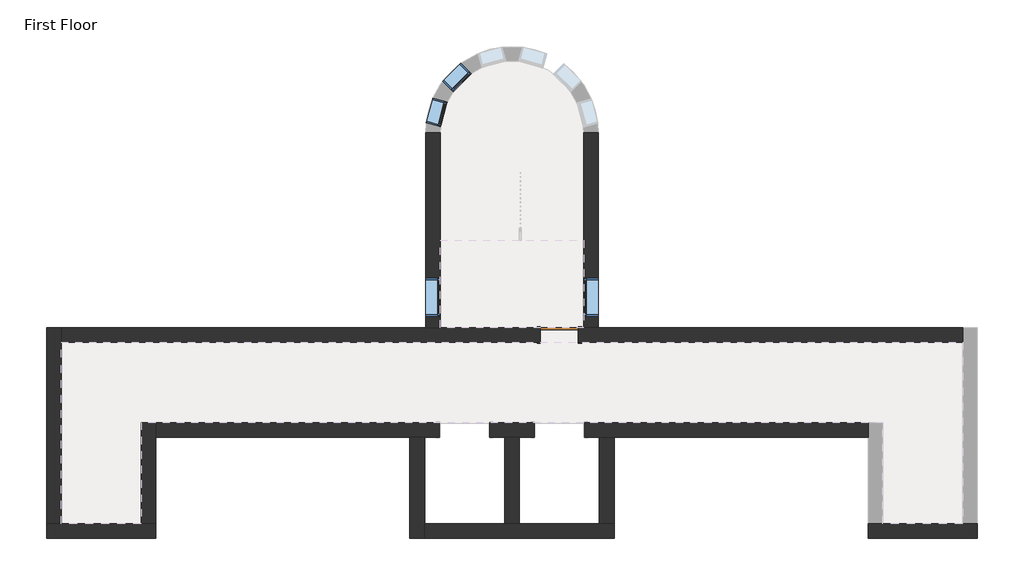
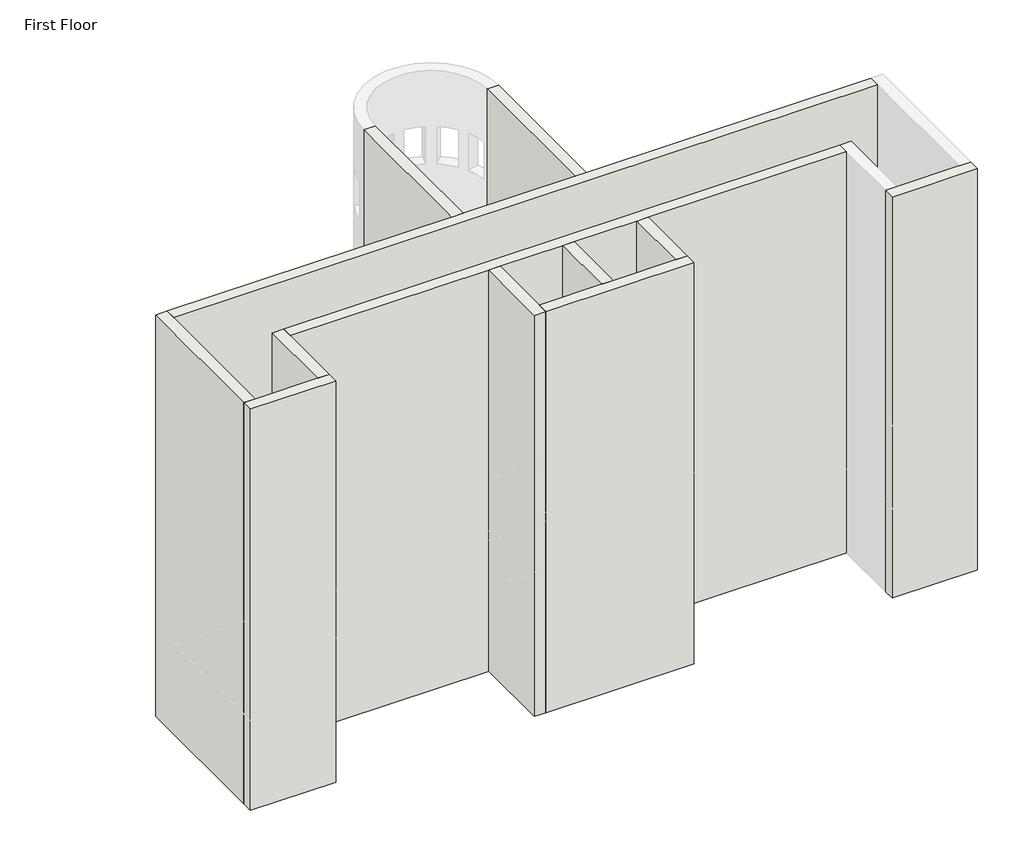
# One storey, part 1 of 5: 12 walls, 4 windows, 1 door.
"""IFC4 building model written with IfcOpenShell, lengths in millimetres."""

from ifc_helpers import new_model, si_unit, frame, origin, origin_with_axes, place, context, project, spatial, polyline, outline, extrude, faceted_brep, transform, mapped, element, save
from components import door_632be17d, window_60baf983, window_15c49d37

model = new_model("IFC4")

# Units and contexts
model_context = context("Model", 3, world=origin())
ifc_project = project(units=[si_unit("LENGTHUNIT", "METRE", prefix="MILLI")], contexts=[model_context])

# Site, building, storey
site = spatial("IfcSite", under=ifc_project)
building = spatial("IfcBuilding", under=site)
storey = spatial("IfcBuildingStorey", under=building, Name="First Floor", Elevation=0.0)

# Door
placement = place(None, origin())
door_shape = door_632be17d(model_context)
element("IfcDoor", 1, ObjectType="Single-Flush : 36\" x 84\"", at=placement, inside=storey, context=model_context, shape_type="MappedRepresentation", body=[
    mapped(door_shape, transform((-5102.6149687, 4715.9758812, 0.0), x_axis=(1.0, 0.0, 0.0), y_axis=(0.0, 1.0, 0.0), z_axis=(0.0, 0.0, 1.0))),
])

# Walls
element("IfcWall", 2, ObjectType="Exterior - Brick on Mtl. Stud", at=placement, inside=storey, context=model_context, shape_type="Brep", body=[
    faceted_brep([(-8707.8274687, 2253.7633812, 0.0), (-8707.8274687, -184.6366188, 0.0), (-8707.8274687, -184.6366188, 13106.4), (-8707.8274687, 2253.7633812, 13106.4), (-8355.4024687, 2253.7633812, 0.0), (-8355.4024687, 2253.7633812, 13106.4), (-8355.4024687, 167.7883812, 13106.4), (-8355.4024687, -184.6366188, 13106.4), (-8355.4024687, -184.6366188, 0.0), (-8355.4024687, 167.7883812, 0.0)], [[[0, 1, 2, 3]], [[4, 5, 6, 7, 8, 9]], [[1, 0, 4, 9, 8]], [[3, 2, 7, 6, 5]], [[2, 1, 8, 7]], [[0, 3, 5, 4]]]),
])
element("IfcWall", 3, ObjectType="Exterior - Brick on Mtl. Stud", at=placement, inside=storey, context=model_context, shape_type="Brep", body=[
    faceted_brep([(-8355.4024687, -184.6366188, 0.0), (-3783.4024687, -184.6366188, 0.0), (-3783.4024687, -184.6366188, 13106.4), (-8355.4024687, -184.6366188, 13106.4), (-8355.4024687, 167.7883812, 0.0), (-8355.4024687, 167.7883812, 13106.4), (-6421.8274687, 167.7883812, 13106.4), (-6069.4024687, 167.7883812, 13106.4), (-4135.8274687, 167.7883812, 13106.4), (-3783.4024687, 167.7883812, 13106.4), (-3783.4024687, 167.7883812, 0.0), (-4135.8274687, 167.7883812, 0.0), (-6069.4024687, 167.7883812, 0.0), (-6421.8274687, 167.7883812, 0.0)], [[[0, 1, 2, 3]], [[4, 5, 6, 7, 8, 9, 10, 11, 12, 13]], [[1, 0, 4, 13, 12, 11, 10]], [[3, 2, 9, 8, 7, 6, 5]], [[2, 1, 10, 9]], [[0, 3, 5, 4]]]),
])
element("IfcWall", 4, ObjectType="Exterior - Brick on Mtl. Stud", at=placement, inside=storey, context=model_context, shape_type="SweptSolid", body=[
    extrude(outline(polyline([(-3783.4024687, 2253.7633812), (-3783.4024687, 167.7883812), (-4135.8274687, 167.7883812), (-4135.8274687, 2253.7633812), (-3783.4024687, 2253.7633812)])), origin_with_axes(), (0.0, 0.0, 1.0), 13106.4),
])
element("IfcWall", 5, ObjectType="Exterior - Brick on Mtl. Stud", at=placement, inside=storey, context=model_context, shape_type="Brep", body=[
    faceted_brep([(-6779.0149687, 2253.7633812, 0.0), (-6421.8274687, 2253.7633812, 0.0), (-6069.4024687, 2253.7633812, 0.0), (-5712.2149687, 2253.7633812, 0.0), (-5712.2149687, 2253.7633812, 2133.6), (-4493.0149687, 2253.7633812, 2133.6), (-4493.0149687, 2253.7633812, 0.0), (-4135.8274687, 2253.7633812, 0.0), (-3783.4024687, 2253.7633812, 0.0), (2341.1725313, 2253.7633812, 0.0), (2341.1725313, 2253.7633812, 13106.4), (-3783.4024687, 2253.7633812, 13106.4), (-4135.8274687, 2253.7633812, 13106.4), (-6069.4024687, 2253.7633812, 13106.4), (-6421.8274687, 2253.7633812, 13106.4), (-8355.4024687, 2253.7633812, 13106.4), (-8707.8274687, 2253.7633812, 13106.4), (-14832.4024687, 2253.7633812, 13106.4), (-14832.4024687, 2253.7633812, 0.0), (-8707.8274687, 2253.7633812, 0.0), (-8355.4024687, 2253.7633812, 0.0), (-7998.2149687, 2253.7633812, 0.0), (-7998.2149687, 2253.7633812, 2133.6), (-6779.0149687, 2253.7633812, 2133.6), (-6779.0149687, 2253.7633812, 11277.6), (-6779.0149687, 2253.7633812, 9144.0), (-7998.2149687, 2253.7633812, 9144.0), (-7998.2149687, 2253.7633812, 11277.6), (-4493.0149687, 2253.7633812, 11277.6), (-4493.0149687, 2253.7633812, 9144.0), (-5712.2149687, 2253.7633812, 9144.0), (-5712.2149687, 2253.7633812, 11277.6), (-6779.0149687, 2253.7633812, 5181.6), (-6779.0149687, 2253.7633812, 3048.0), (-7998.2149687, 2253.7633812, 3048.0), (-7998.2149687, 2253.7633812, 5181.6), (-4493.0149687, 2253.7633812, 5181.6), (-4493.0149687, 2253.7633812, 3048.0), (-5712.2149687, 2253.7633812, 3048.0), (-5712.2149687, 2253.7633812, 5181.6), (-6779.0149687, 2253.7633812, 8229.6), (-6779.0149687, 2253.7633812, 6096.0), (-7998.2149687, 2253.7633812, 6096.0), (-7998.2149687, 2253.7633812, 8229.6), (-4493.0149687, 2253.7633812, 8229.6), (-4493.0149687, 2253.7633812, 6096.0), (-5712.2149687, 2253.7633812, 6096.0), (-5712.2149687, 2253.7633812, 8229.6), (-5712.2149687, 2606.1883812, 2133.6), (-5712.2149687, 2606.1883812, 0.0), (-6779.0149687, 2606.1883812, 0.0), (-6779.0149687, 2606.1883812, 2133.6), (-7998.2149687, 2606.1883812, 2133.6), (-7998.2149687, 2606.1883812, 0.0), (-14832.4024687, 2606.1883812, 0.0), (-14832.4024687, 2606.1883812, 13106.4), (2341.1725313, 2606.1883812, 13106.4), (2341.1725313, 2606.1883812, 0.0), (-4493.0149687, 2606.1883812, 0.0), (-4493.0149687, 2606.1883812, 2133.6), (-6779.0149687, 2606.1883812, 11277.6), (-7998.2149687, 2606.1883812, 11277.6), (-7998.2149687, 2606.1883812, 9144.0), (-6779.0149687, 2606.1883812, 9144.0), (-4493.0149687, 2606.1883812, 11277.6), (-5712.2149687, 2606.1883812, 11277.6), (-5712.2149687, 2606.1883812, 9144.0), (-4493.0149687, 2606.1883812, 9144.0), (-6779.0149687, 2606.1883812, 5181.6), (-7998.2149687, 2606.1883812, 5181.6), (-7998.2149687, 2606.1883812, 3048.0), (-6779.0149687, 2606.1883812, 3048.0), (-4493.0149687, 2606.1883812, 5181.6), (-5712.2149687, 2606.1883812, 5181.6), (-5712.2149687, 2606.1883812, 3048.0), (-4493.0149687, 2606.1883812, 3048.0), (-6779.0149687, 2606.1883812, 8229.6), (-7998.2149687, 2606.1883812, 8229.6), (-7998.2149687, 2606.1883812, 6096.0), (-6779.0149687, 2606.1883812, 6096.0), (-4493.0149687, 2606.1883812, 8229.6), (-5712.2149687, 2606.1883812, 8229.6), (-5712.2149687, 2606.1883812, 6096.0), (-4493.0149687, 2606.1883812, 6096.0)], [[[0, 1, 2, 3, 4, 5, 6, 7, 8, 9, 10, 11, 12, 13, 14, 15, 16, 17, 18, 19, 20, 21, 22, 23], [24, 25, 26, 27], [28, 29, 30, 31], [32, 33, 34, 35], [36, 37, 38, 39], [40, 41, 42, 43], [44, 45, 46, 47]], [[48, 49, 50, 51, 52, 53, 54, 55, 56, 57, 58, 59], [60, 61, 62, 63], [64, 65, 66, 67], [68, 69, 70, 71], [72, 73, 74, 75], [76, 77, 78, 79], [80, 81, 82, 83]], [[54, 53, 21, 20, 19, 18]], [[50, 49, 3, 2, 1, 0]], [[58, 57, 9, 8, 7, 6]], [[17, 16, 15, 14, 13, 12, 11, 10, 56, 55]], [[10, 9, 57, 56]], [[18, 17, 55, 54]], [[0, 23, 51, 50]], [[22, 21, 53, 52]], [[23, 22, 52, 51]], [[6, 5, 59, 58]], [[4, 3, 49, 48]], [[5, 4, 48, 59]], [[25, 24, 60, 63]], [[26, 25, 63, 62]], [[27, 26, 62, 61]], [[24, 27, 61, 60]], [[29, 28, 64, 67]], [[30, 29, 67, 66]], [[31, 30, 66, 65]], [[28, 31, 65, 64]], [[33, 32, 68, 71]], [[34, 33, 71, 70]], [[35, 34, 70, 69]], [[32, 35, 69, 68]], [[37, 36, 72, 75]], [[38, 37, 75, 74]], [[39, 38, 74, 73]], [[36, 39, 73, 72]], [[41, 40, 76, 79]], [[42, 41, 79, 78]], [[43, 42, 78, 77]], [[40, 43, 77, 76]], [[45, 44, 80, 83]], [[46, 45, 83, 82]], [[47, 46, 82, 81]], [[44, 47, 81, 80]]]),
])
element("IfcWall", 6, ObjectType="Exterior - Brick on Mtl. Stud", at=placement, inside=storey, context=model_context, shape_type="SweptSolid", body=[
    extrude(outline(polyline([(4892.1883812, 0.0), (4892.1883812, 13106.4), (9592.7758812, 13106.4), (9592.7758812, 0.0), (4892.1883812, 0.0)]), holes=[polyline([(5173.1758812, 2133.6), (5173.1758812, 914.4), (6087.5758812, 914.4), (6087.5758812, 2133.6), (5173.1758812, 2133.6)]), polyline([(5173.1758812, 11277.6), (5173.1758812, 10058.4), (6087.5758812, 10058.4), (6087.5758812, 11277.6), (5173.1758812, 11277.6)]), polyline([(5173.1758812, 5181.6), (5173.1758812, 3962.4), (6087.5758812, 3962.4), (6087.5758812, 5181.6), (5173.1758812, 5181.6)]), polyline([(5173.1758812, 8229.6), (5173.1758812, 7010.4), (6087.5758812, 7010.4), (6087.5758812, 8229.6), (5173.1758812, 8229.6)])]), frame((-8326.8274687, 0.0, 0.0), z_axis=(1.0, 0.0, 0.0), x_axis=(0.0, 1.0, 0.0)), (0.0, 0.0, 1.0), 352.425),
])
element("IfcWall", 7, ObjectType="Exterior - Brick on Mtl. Stud", at=placement, inside=storey, context=model_context, shape_type="Brep", body=[
    faceted_brep([(4627.1725313, 4892.1883812, 0.0), (-4164.4024687, 4892.1883812, 0.0), (-4516.8274687, 4892.1883812, 0.0), (-4645.4149687, 4892.1883812, 0.0), (-4645.4149687, 4892.1883812, 2133.6), (-5559.8149687, 4892.1883812, 2133.6), (-5559.8149687, 4892.1883812, 0.0), (-7974.4024687, 4892.1883812, 0.0), (-8326.8274687, 4892.1883812, 0.0), (-17118.4024687, 4892.1883812, 0.0), (-17118.4024687, 4892.1883812, 13106.4), (-8326.8274687, 4892.1883812, 13106.4), (-7974.4024687, 4892.1883812, 13106.4), (-4516.8274687, 4892.1883812, 13106.4), (-4164.4024687, 4892.1883812, 13106.4), (4627.1725313, 4892.1883812, 13106.4), (-5559.8149687, 4892.1883812, 9144.0), (-4645.4149687, 4892.1883812, 9144.0), (-4645.4149687, 4892.1883812, 11277.6), (-5559.8149687, 4892.1883812, 11277.6), (-5559.8149687, 4892.1883812, 3048.0), (-4645.4149687, 4892.1883812, 3048.0), (-4645.4149687, 4892.1883812, 5181.6), (-5559.8149687, 4892.1883812, 5181.6), (-5559.8149687, 4892.1883812, 6096.0), (-4645.4149687, 4892.1883812, 6096.0), (-4645.4149687, 4892.1883812, 8229.6), (-5559.8149687, 4892.1883812, 8229.6), (-4645.4149687, 4539.7633812, 2133.6), (-4645.4149687, 4539.7633812, 0.0), (4627.1725313, 4539.7633812, 0.0), (4627.1725313, 4539.7633812, 13106.4), (-17118.4024687, 4539.7633812, 13106.4), (-17118.4024687, 4539.7633812, 0.0), (-5559.8149687, 4539.7633812, 0.0), (-5559.8149687, 4539.7633812, 2133.6), (-5559.8149687, 4539.7633812, 9144.0), (-5559.8149687, 4539.7633812, 11277.6), (-4645.4149687, 4539.7633812, 11277.6), (-4645.4149687, 4539.7633812, 9144.0), (-5559.8149687, 4539.7633812, 3048.0), (-5559.8149687, 4539.7633812, 5181.6), (-4645.4149687, 4539.7633812, 5181.6), (-4645.4149687, 4539.7633812, 3048.0), (-5559.8149687, 4539.7633812, 6096.0), (-5559.8149687, 4539.7633812, 8229.6), (-4645.4149687, 4539.7633812, 8229.6), (-4645.4149687, 4539.7633812, 6096.0)], [[[0, 1, 2, 3, 4, 5, 6, 7, 8, 9, 10, 11, 12, 13, 14, 15], [16, 17, 18, 19], [20, 21, 22, 23], [24, 25, 26, 27]], [[28, 29, 30, 31, 32, 33, 34, 35], [36, 37, 38, 39], [40, 41, 42, 43], [44, 45, 46, 47]], [[30, 29, 3, 2, 1, 0]], [[34, 33, 9, 8, 7, 6]], [[15, 14, 13, 12, 11, 10, 32, 31]], [[0, 15, 31, 30]], [[10, 9, 33, 32]], [[4, 3, 29, 28]], [[5, 4, 28, 35]], [[6, 5, 35, 34]], [[17, 16, 36, 39]], [[18, 17, 39, 38]], [[19, 18, 38, 37]], [[16, 19, 37, 36]], [[21, 20, 40, 43]], [[22, 21, 43, 42]], [[23, 22, 42, 41]], [[20, 23, 41, 40]], [[25, 24, 44, 47]], [[26, 25, 47, 46]], [[27, 26, 46, 45]], [[24, 27, 45, 44]]]),
])
element("IfcWall", 8, ObjectType="Exterior - Brick on Mtl. Stud", at=placement, inside=storey, context=model_context, shape_type="SweptSolid", body=[
    extrude(outline(polyline([(4892.1883812, 0.0), (4892.1883812, 13106.4), (9592.7758812, 13106.4), (9592.7758812, 0.0), (4892.1883812, 0.0)]), holes=[polyline([(6087.5758812, 2133.6), (5173.1758812, 2133.6), (5173.1758812, 914.4), (6087.5758812, 914.4), (6087.5758812, 2133.6)]), polyline([(6087.5758812, 11277.6), (5173.1758812, 11277.6), (5173.1758812, 10058.4), (6087.5758812, 10058.4), (6087.5758812, 11277.6)]), polyline([(6087.5758812, 5181.6), (5173.1758812, 5181.6), (5173.1758812, 3962.4), (6087.5758812, 3962.4), (6087.5758812, 5181.6)]), polyline([(6087.5758812, 8229.6), (5173.1758812, 8229.6), (5173.1758812, 7010.4), (6087.5758812, 7010.4), (6087.5758812, 8229.6)])]), frame((-4516.8274687, 0.0, 0.0), z_axis=(1.0, 0.0, 0.0), x_axis=(0.0, 1.0, 0.0)), (0.0, 0.0, 1.0), 352.425),
])
element("IfcWall", 9, ObjectType="Exterior - Brick on Mtl. Stud", at=placement, inside=storey, context=model_context, shape_type="SweptSolid", body=[
    extrude(outline(polyline([(-6069.4024687, 2253.7633812), (-6069.4024687, 167.7883812), (-6421.8274687, 167.7883812), (-6421.8274687, 2253.7633812), (-6069.4024687, 2253.7633812)])), origin_with_axes(), (0.0, 0.0, 1.0), 13106.4),
])
element("IfcWall", 10, ObjectType="Exterior - Brick on Mtl. Stud", at=placement, inside=storey, context=model_context, shape_type="Brep", body=[
    faceted_brep([(4979.5975313, 167.7883812, 0.0), (4627.1725313, 167.7883812, 0.0), (2693.5975313, 167.7883812, 0.0), (2341.1725313, 167.7883812, 0.0), (2341.1725313, 167.7883812, 13106.4), (2693.5975313, 167.7883812, 13106.4), (4627.1725313, 167.7883812, 13106.4), (4979.5975313, 167.7883812, 13106.4), (4979.5975313, -184.6366188, 0.0), (4979.5975313, -184.6366188, 13106.4), (2341.1725313, -184.6366188, 13106.4), (2341.1725313, -184.6366188, 0.0)], [[[0, 1, 2, 3, 4, 5, 6, 7]], [[8, 9, 10, 11]], [[3, 2, 1, 0, 8, 11]], [[7, 6, 5, 4, 10, 9]], [[4, 3, 11, 10]], [[0, 7, 9, 8]]]),
])
element("IfcWall", 11, ObjectType="Exterior - Brick on Mtl. Stud", at=placement, inside=storey, context=model_context, shape_type="Brep", body=[
    faceted_brep([(-17470.8274687, -184.6366188, 0.0), (-14832.4024687, -184.6366188, 0.0), (-14832.4024687, -184.6366188, 13106.4), (-17470.8274687, -184.6366188, 13106.4), (-17470.8274687, 167.7883812, 0.0), (-17470.8274687, 167.7883812, 13106.4), (-17118.4024687, 167.7883812, 13106.4), (-15184.8274687, 167.7883812, 13106.4), (-14832.4024687, 167.7883812, 13106.4), (-14832.4024687, 167.7883812, 0.0), (-15184.8274687, 167.7883812, 0.0), (-17118.4024687, 167.7883812, 0.0)], [[[0, 1, 2, 3]], [[4, 5, 6, 7, 8, 9, 10, 11]], [[1, 0, 4, 11, 10, 9]], [[3, 2, 8, 7, 6, 5]], [[2, 1, 9, 8]], [[0, 3, 5, 4]]]),
])
element("IfcWall", 12, ObjectType="Exterior - Brick on Mtl. Stud", at=placement, inside=storey, context=model_context, shape_type="Brep", body=[
    faceted_brep([(-15184.8274687, 2606.1883812, 0.0), (-15184.8274687, 167.7883812, 0.0), (-15184.8274687, 167.7883812, 13106.4), (-15184.8274687, 2606.1883812, 13106.4), (-14832.4024687, 2606.1883812, 0.0), (-14832.4024687, 2606.1883812, 13106.4), (-14832.4024687, 2253.7633812, 13106.4), (-14832.4024687, 167.7883812, 13106.4), (-14832.4024687, 167.7883812, 0.0), (-14832.4024687, 2253.7633812, 0.0)], [[[0, 1, 2, 3]], [[4, 5, 6, 7, 8, 9]], [[1, 0, 4, 9, 8]], [[3, 2, 7, 6, 5]], [[0, 3, 5, 4]], [[2, 1, 8, 7]]]),
])
element("IfcWall", 13, ObjectType="Exterior - Brick on Mtl. Stud", at=placement, inside=storey, context=model_context, shape_type="Brep", body=[
    faceted_brep([(-17118.4024687, 167.7883812, 0.0), (-17118.4024687, 4539.7633812, 0.0), (-17118.4024687, 4892.1883812, 0.0), (-17118.4024687, 4892.1883812, 13106.4), (-17118.4024687, 4539.7633812, 13106.4), (-17118.4024687, 167.7883812, 13106.4), (-17470.8274687, 167.7883812, 0.0), (-17470.8274687, 167.7883812, 13106.4), (-17470.8274687, 4892.1883812, 13106.4), (-17470.8274687, 4892.1883812, 0.0)], [[[0, 1, 2, 3, 4, 5]], [[6, 7, 8, 9]], [[2, 1, 0, 6, 9]], [[5, 4, 3, 8, 7]], [[3, 2, 9, 8]], [[0, 5, 7, 6]]]),
])

# Windows
window_shape = window_60baf983(model_context)
element("IfcWindow", 14, ObjectType="Fixed : 24\" x 48\"", at=placement, inside=storey, context=model_context, shape_type="MappedRepresentation", body=[
    mapped(window_shape, transform((-8072.5076754, 10048.7859441, 0.0), x_axis=(-0.2617614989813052, -0.9651325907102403, 0.0), y_axis=(0.9651325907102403, -0.2617614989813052, 0.0), z_axis=(0.0, 0.0, 1.0))),
])
element("IfcWindow", 15, ObjectType="Fixed : 24\" x 48\"", at=placement, inside=storey, context=model_context, shape_type="MappedRepresentation", body=[
    mapped(window_shape, transform((-7599.7454312, 10901.1385333, 0.0), x_axis=(-0.7092584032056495, -0.7049485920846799, 0.0), y_axis=(0.7049485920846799, -0.7092584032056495, 0.0), z_axis=(0.0, 0.0, 1.0))),
])
window_2_shape = window_15c49d37(model_context)
element("IfcWindow", 16, ObjectType="Fixed : 36\" x 48\"", at=placement, inside=storey, context=model_context, shape_type="MappedRepresentation", body=[
    mapped(window_2_shape, transform((-8150.6149687, 5592.2758812, 0.0), x_axis=(0.0, -1.0, 0.0), y_axis=(1.0, 0.0, 0.0), z_axis=(0.0, 0.0, 1.0))),
])
element("IfcWindow", 17, ObjectType="Fixed : 36\" x 48\"", at=placement, inside=storey, context=model_context, shape_type="MappedRepresentation", body=[
    mapped(window_2_shape, transform((-4340.6149687, 5668.4758812, 0.0), x_axis=(0.0, 1.0, 0.0), y_axis=(-1.0, 0.0, 0.0), z_axis=(0.0, 0.0, 1.0))),
])

save(model, "model.ifc")
